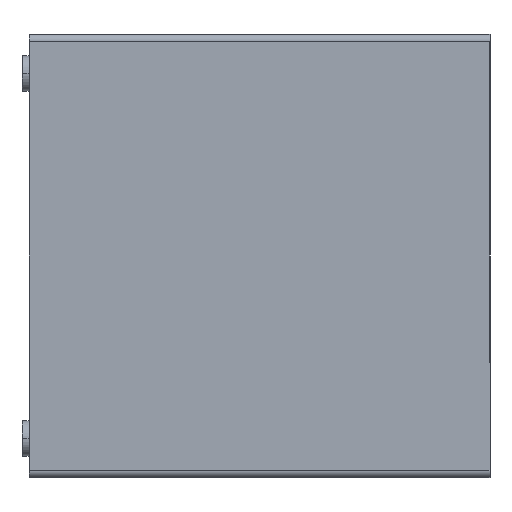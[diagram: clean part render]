
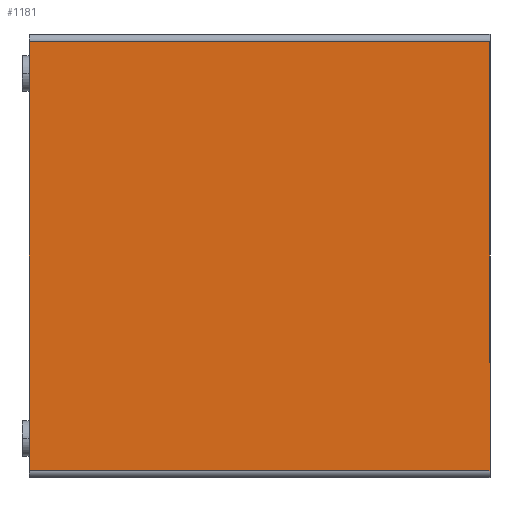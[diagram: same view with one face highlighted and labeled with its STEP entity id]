
A CAD part, left-side view. The second image highlights one B-rep face of the part: STEP entity #1181.
In plain terms, the highlighted planar face has unit normal (-1, 0, 0).
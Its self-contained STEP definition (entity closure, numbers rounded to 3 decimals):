
#21 = CARTESIAN_POINT ( 'NONE',  ( -131., 65., 1. ) ) ;
#38 = DIRECTION ( 'NONE',  ( 1., 0., 0. ) ) ;
#52 = VECTOR ( 'NONE', #1972, 1000. ) ;
#53 = EDGE_CURVE ( 'NONE', #437, #465, #720, .T. ) ;
#70 = EDGE_LOOP ( 'NONE', ( #636, #1026, #1758, #290 ) ) ;
#246 = VECTOR ( 'NONE', #1934, 1000. ) ;
#255 = PLANE ( 'NONE',  #516 ) ;
#267 = VERTEX_POINT ( 'NONE', #302 ) ;
#272 = CARTESIAN_POINT ( 'NONE',  ( -131., -65., 122. ) ) ;
#290 = ORIENTED_EDGE ( 'NONE', *, *, #53, .T. ) ;
#302 = CARTESIAN_POINT ( 'NONE',  ( -131., 65., 122. ) ) ;
#437 = VERTEX_POINT ( 'NONE', #822 ) ;
#465 = VERTEX_POINT ( 'NONE', #272 ) ;
#516 = AXIS2_PLACEMENT_3D ( 'NONE', #1455, #38, #1676 ) ;
#622 = VECTOR ( 'NONE', #1442, 1000. ) ;
#636 = ORIENTED_EDGE ( 'NONE', *, *, #939, .T. ) ;
#720 = LINE ( 'NONE', #1245, #52 ) ;
#821 = LINE ( 'NONE', #21, #1134 ) ;
#822 = CARTESIAN_POINT ( 'NONE',  ( -131., -65., 1. ) ) ;
#854 = LINE ( 'NONE', #1745, #246 ) ;
#898 = LINE ( 'NONE', #1958, #622 ) ;
#939 = EDGE_CURVE ( 'NONE', #465, #267, #854, .T. ) ;
#1026 = ORIENTED_EDGE ( 'NONE', *, *, #1093, .T. ) ;
#1093 = EDGE_CURVE ( 'NONE', #267, #1398, #898, .T. ) ;
#1134 = VECTOR ( 'NONE', #1509, 1000. ) ;
#1165 = CARTESIAN_POINT ( 'NONE',  ( -131., 65., 1. ) ) ;
#1181 = ADVANCED_FACE ( 'NONE', ( #1292 ), #255, .F. ) ;
#1245 = CARTESIAN_POINT ( 'NONE',  ( -131., -65., 0. ) ) ;
#1292 = FACE_OUTER_BOUND ( 'NONE', #70, .T. ) ;
#1398 = VERTEX_POINT ( 'NONE', #1165 ) ;
#1442 = DIRECTION ( 'NONE',  ( 0., 0., -1. ) ) ;
#1455 = CARTESIAN_POINT ( 'NONE',  ( -131., 0., 0. ) ) ;
#1509 = DIRECTION ( 'NONE',  ( 0., 1., 0. ) ) ;
#1676 = DIRECTION ( 'NONE',  ( 0., 0., -1. ) ) ;
#1745 = CARTESIAN_POINT ( 'NONE',  ( -131., -65., 122. ) ) ;
#1758 = ORIENTED_EDGE ( 'NONE', *, *, #1881, .F. ) ;
#1881 = EDGE_CURVE ( 'NONE', #437, #1398, #821, .T. ) ;
#1934 = DIRECTION ( 'NONE',  ( 0., 1., 0. ) ) ;
#1958 = CARTESIAN_POINT ( 'NONE',  ( -131., 65., 0. ) ) ;
#1972 = DIRECTION ( 'NONE',  ( 0., 0., 1. ) ) ;
